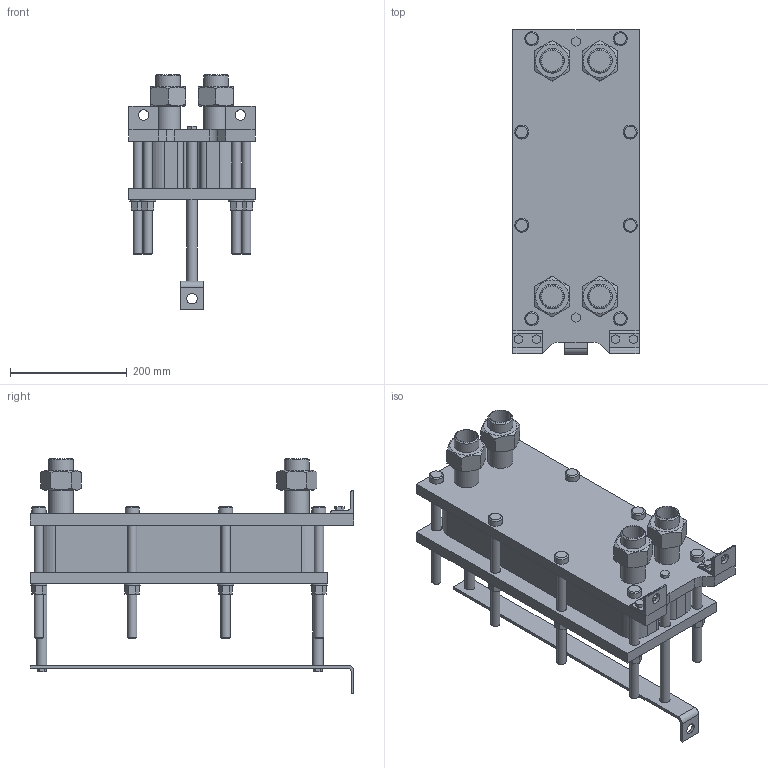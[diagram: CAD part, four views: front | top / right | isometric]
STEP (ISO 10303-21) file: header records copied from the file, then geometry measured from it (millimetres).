
FILE_DESCRIPTION(/* description */ (''),/* implementation_level */ '2;1');
FILE_NAME(/* name */ 'C:\Users\zhuro\Desktop\ENCO\TO\ЭН-004\ЭН-0,5-004-26-1.stp',/* time_stamp */ '2022-06-06T10:45:27+03:00',/* author */ ('zhuro'),/* organization */ (''),/* preprocessor_version */ 'ST-DEVELOPER v18.1',/* originating_system */ 'Autodesk Inventor 2022',/* authorisation */ '');
FILE_SCHEMA (('AUTOMOTIVE_DESIGN { 1 0 10303 214 3 1 1 }'));
Length unit declared in the file: millimetre
Products named in the file (1): ЭН-0,5-004-26-1
Bounding box: 216 x 555 x 401.8 mm (x, y, z)
Volume: 11539434.8 mm3; surface area: 1133615.6 mm2
Topology: 40 solids, 40 shells, 403 faces, 865 edges, 574 vertices
Faces by surface type: plane 272, cylinder 103, cone 28
Full cylindrical faces by diameter (mm): 10 x4, 16 x16, 18 x29, 20 x2, 24 x8, 28 x8, 36.3 x5, 42.3 x9
Entity records: 11137 total; most frequent: CARTESIAN_POINT 1939, DIRECTION 1879, ORIENTED_EDGE 1730, EDGE_CURVE 865, AXIS2_PLACEMENT_3D 658, VERTEX_POINT 574, LINE 563, VECTOR 563
